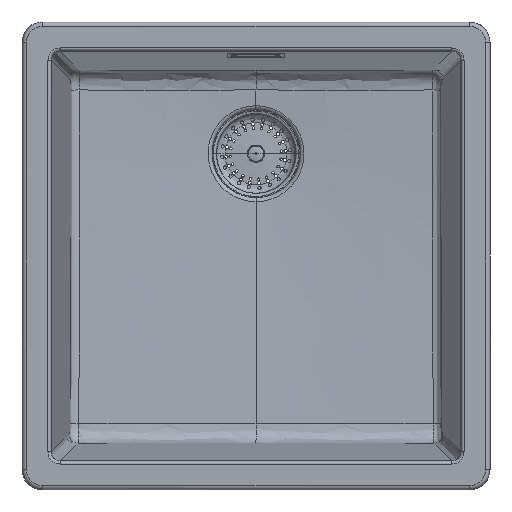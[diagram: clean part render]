
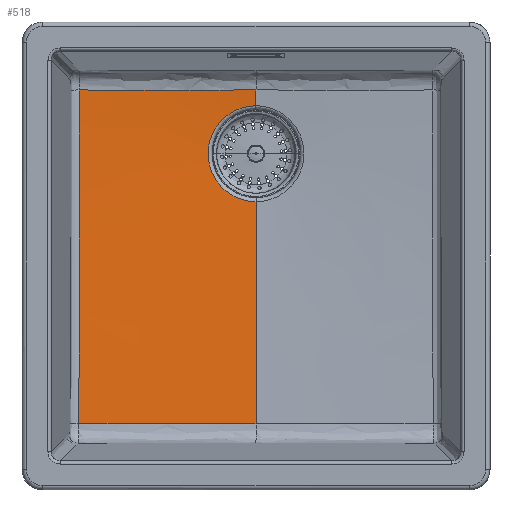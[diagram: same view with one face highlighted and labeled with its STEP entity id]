
A CAD part, top view. The second image highlights one B-rep face of the part: STEP entity #518.
In plain terms, the highlighted free-form (B-spline) face has degree [1, 2] with [2, 5] control points.
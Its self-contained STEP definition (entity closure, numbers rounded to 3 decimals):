
#518=ADVANCED_FACE('',(#1039),#9216,.T.);
#1039=FACE_OUTER_BOUND('',#1564,.T.);
#1564=EDGE_LOOP('',(#3239,#3240,#3241,#3242,#3243,#3244,#3245));
#3239=ORIENTED_EDGE('',*,*,#5605,.F.);
#3240=ORIENTED_EDGE('',*,*,#5494,.F.);
#3241=ORIENTED_EDGE('',*,*,#5499,.T.);
#3242=ORIENTED_EDGE('',*,*,#5497,.F.);
#3243=ORIENTED_EDGE('',*,*,#5498,.F.);
#3244=ORIENTED_EDGE('',*,*,#5491,.F.);
#3245=ORIENTED_EDGE('',*,*,#5603,.F.);
#5491=EDGE_CURVE('',#8369,#8370,#7330,.T.);
#5494=EDGE_CURVE('',#8371,#8427,#6633,.T.);
#5497=EDGE_CURVE('',#8365,#8366,#7333,.T.);
#5498=EDGE_CURVE('',#8370,#8365,#7334,.T.);
#5499=EDGE_CURVE('',#8371,#8366,#7335,.T.);
#5603=EDGE_CURVE('',#8372,#8369,#7369,.T.);
#5605=EDGE_CURVE('',#8427,#8372,#6705,.T.);
#6633=(
BOUNDED_CURVE()
B_SPLINE_CURVE(2,(#35240,#35241,#35242),.UNSPECIFIED.,.F.,.F.)
B_SPLINE_CURVE_WITH_KNOTS((3,3),(-146.783,-146.749),
 .UNSPECIFIED.)
CURVE()
GEOMETRIC_REPRESENTATION_ITEM()
RATIONAL_B_SPLINE_CURVE((1.,1.,1.))
REPRESENTATION_ITEM('')
);
#6705=(
BOUNDED_CURVE()
B_SPLINE_CURVE(2,(#35806,#35807,#35808,#35809,#35810),.UNSPECIFIED.,.F.,
 .F.)
B_SPLINE_CURVE_WITH_KNOTS((3,2,3),(-146.749,-73.374,
0.),.UNSPECIFIED.)
CURVE()
GEOMETRIC_REPRESENTATION_ITEM()
RATIONAL_B_SPLINE_CURVE((1.,0.707,1.,0.707,1.))
REPRESENTATION_ITEM('')
);
#7330=B_SPLINE_CURVE_WITH_KNOTS('',3,(#35226,#35227,#35228,#35229,#35230,
#35231),.UNSPECIFIED.,.F.,.F.,(4,2,4),(0.,0.5,
1.),.UNSPECIFIED.);
#7333=B_SPLINE_CURVE_WITH_KNOTS('',3,(#35267,#35268,#35269,#35270,#35271,
#35272,#35273,#35274,#35275,#35276,#35277,#35278,#35279,#35280,#35281,#35282),
 .UNSPECIFIED.,.F.,.F.,(4,2,2,2,2,2,2,4),(0.,0.125,0.25,
0.375,0.5,0.625,0.75,
1.),.UNSPECIFIED.);
#7334=B_SPLINE_CURVE_WITH_KNOTS('',3,(#35283,#35284,#35285,#35286,#35287,
#35288,#35289,#35290,#35291,#35292,#35293,#35294),.UNSPECIFIED.,.F.,.F.,
(4,2,2,2,2,4),(-1.,-0.875,-0.75,
-0.5,-0.25,0.),
 .UNSPECIFIED.);
#7335=B_SPLINE_CURVE_WITH_KNOTS('',1,(#35295,#35296),.UNSPECIFIED.,.F.,
 .F.,(2,2),(46.787,62.204),.UNSPECIFIED.);
#7369=B_SPLINE_CURVE_WITH_KNOTS('',1,(#35801,#35802),.UNSPECIFIED.,.F.,
 .F.,(2,2),(46.787,263.588),.UNSPECIFIED.);
#8365=VERTEX_POINT('',#25941);
#8366=VERTEX_POINT('',#25942);
#8369=VERTEX_POINT('',#25945);
#8370=VERTEX_POINT('',#25946);
#8371=VERTEX_POINT('',#25947);
#8372=VERTEX_POINT('',#25948);
#8427=VERTEX_POINT('',#26003);
#9216=(
BOUNDED_SURFACE()
B_SPLINE_SURFACE(1,2,((#23972,#23973,#23974,#23975,#23976),(#23977,#23978,
#23979,#23980,#23981)),.UNSPECIFIED.,.F.,.F.,.F.)
B_SPLINE_SURFACE_WITH_KNOTS((2,2),(3,2,3),(0.,349.139),(0.,547.675,
1095.351),.UNSPECIFIED.)
GEOMETRIC_REPRESENTATION_ITEM()
RATIONAL_B_SPLINE_SURFACE(((1.,0.707,1.,0.707,1.),
(1.,0.707,1.,0.707,1.)))
REPRESENTATION_ITEM('')
SURFACE()
);
#23972=CARTESIAN_POINT('',(235.6,0.4,-240.767));
#23973=CARTESIAN_POINT('',(235.6,0.4,-240.767));
#23974=CARTESIAN_POINT('',(235.6,0.4,-240.767));
#23975=CARTESIAN_POINT('',(235.6,0.4,-240.767));
#23976=CARTESIAN_POINT('',(235.6,0.4,-240.767));
#23977=CARTESIAN_POINT('',(235.6,349.061,-222.494));
#23978=CARTESIAN_POINT('',(-113.061,349.061,-222.494));
#23979=CARTESIAN_POINT('',(-113.061,0.4,-222.494));
#23980=CARTESIAN_POINT('',(-113.061,-348.261,-222.494));
#23981=CARTESIAN_POINT('',(235.6,-348.261,-222.494));
#25941=CARTESIAN_POINT('',(63.513,62.493,-231.179));
#25942=CARTESIAN_POINT('',(235.6,62.519,-237.511));
#25945=CARTESIAN_POINT('',(235.6,-262.827,-226.971));
#25946=CARTESIAN_POINT('',(62.971,-262.94,-224.264));
#25947=CARTESIAN_POINT('',(235.6,47.122,-238.318));
#25948=CARTESIAN_POINT('',(235.6,-46.322,-238.318));
#26003=CARTESIAN_POINT('',(235.566,47.122,-238.318));
#35226=CARTESIAN_POINT('',(235.6,-262.827,-226.971));
#35227=CARTESIAN_POINT('',(206.815,-262.826,-226.971));
#35228=CARTESIAN_POINT('',(178.03,-262.833,-226.716));
#35229=CARTESIAN_POINT('',(120.483,-262.868,-225.777));
#35230=CARTESIAN_POINT('',(91.721,-262.897,-225.093));
#35231=CARTESIAN_POINT('',(62.971,-262.94,-224.264));
#35240=CARTESIAN_POINT('',(235.6,47.122,-238.318));
#35241=CARTESIAN_POINT('',(235.583,47.122,-238.318));
#35242=CARTESIAN_POINT('',(235.566,47.122,-238.318));
#35267=CARTESIAN_POINT('',(63.513,62.493,-231.179));
#35268=CARTESIAN_POINT('',(80.384,62.429,-232.012));
#35269=CARTESIAN_POINT('',(95.907,62.393,-232.763));
#35270=CARTESIAN_POINT('',(123.154,62.339,-234.046));
#35271=CARTESIAN_POINT('',(134.656,62.327,-234.567));
#35272=CARTESIAN_POINT('',(154.163,62.318,-235.413));
#35273=CARTESIAN_POINT('',(162.265,62.332,-235.742));
#35274=CARTESIAN_POINT('',(176.377,62.354,-236.282));
#35275=CARTESIAN_POINT('',(182.329,62.372,-236.489));
#35276=CARTESIAN_POINT('',(193.058,62.402,-236.832));
#35277=CARTESIAN_POINT('',(197.787,62.425,-236.965));
#35278=CARTESIAN_POINT('',(206.521,62.452,-237.181));
#35279=CARTESIAN_POINT('',(210.541,62.465,-237.264));
#35280=CARTESIAN_POINT('',(221.971,62.509,-237.455));
#35281=CARTESIAN_POINT('',(228.766,62.522,-237.511));
#35282=CARTESIAN_POINT('',(235.6,62.519,-237.511));
#35283=CARTESIAN_POINT('',(62.971,-262.94,-224.264));
#35284=CARTESIAN_POINT('',(63.052,-242.369,-225.168));
#35285=CARTESIAN_POINT('',(63.125,-222.498,-226.01));
#35286=CARTESIAN_POINT('',(63.251,-185.077,-227.512));
#35287=CARTESIAN_POINT('',(63.304,-167.551,-228.173));
#35288=CARTESIAN_POINT('',(63.43,-119.15,-229.855));
#35289=CARTESIAN_POINT('',(63.479,-92.36,-230.585));
#35290=CARTESIAN_POINT('',(63.533,-44.694,-231.517));
#35291=CARTESIAN_POINT('',(63.544,-23.626,-231.729));
#35292=CARTESIAN_POINT('',(63.547,18.341,-231.768));
#35293=CARTESIAN_POINT('',(63.538,39.165,-231.595));
#35294=CARTESIAN_POINT('',(63.513,62.493,-231.179));
#35295=CARTESIAN_POINT('',(235.6,47.122,-238.318));
#35296=CARTESIAN_POINT('',(235.6,62.519,-237.511));
#35801=CARTESIAN_POINT('',(235.6,-46.322,-238.318));
#35802=CARTESIAN_POINT('',(235.6,-262.827,-226.972));
#35806=CARTESIAN_POINT('',(235.566,47.122,-238.318));
#35807=CARTESIAN_POINT('',(188.861,47.089,-238.318));
#35808=CARTESIAN_POINT('',(188.878,0.383,-238.318));
#35809=CARTESIAN_POINT('',(188.894,-46.322,-238.318));
#35810=CARTESIAN_POINT('',(235.6,-46.322,-238.318));
